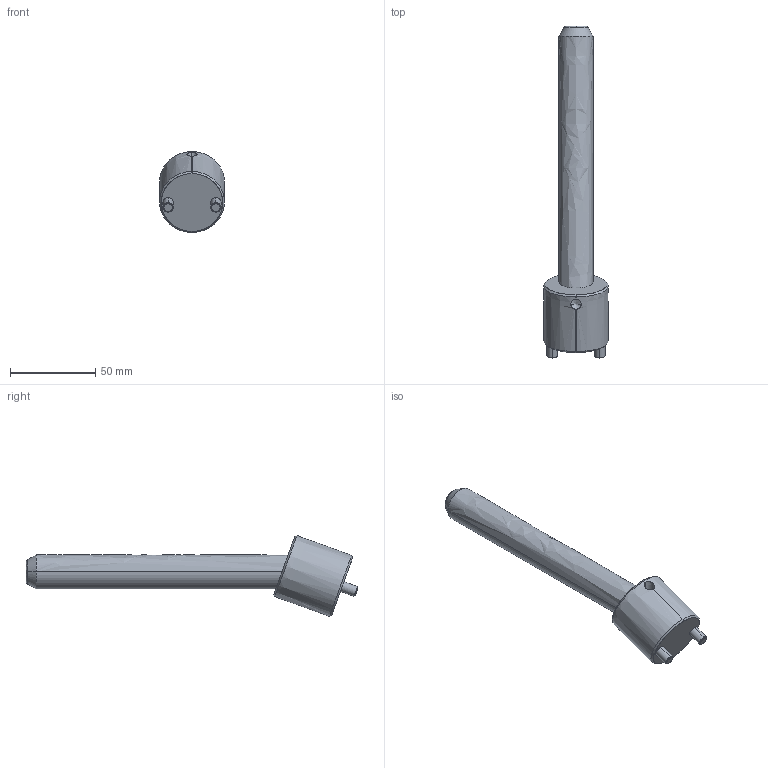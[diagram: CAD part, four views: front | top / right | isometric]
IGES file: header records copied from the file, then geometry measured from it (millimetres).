
Start section: SolidWorks IGES file using analytic representation for surfaces
Global section: file name: D:\Current\W1\Data\CI2020150\CI2020150.IGS; native system: SolidWorks 2017; preprocessor: SolidWorks 2017; author: Ravi Kalvai; date: 231207.180740; units: millimetre
Bounding box: 38 x 194.51 x 47.34 mm (x, y, z)
Surface area: 20554.1 mm2 (no closed solid volume)
Topology: 0 solids, 0 shells, 37 faces, 734 edges, 732 vertices
Faces by surface type: revolution 28, bspline 9
